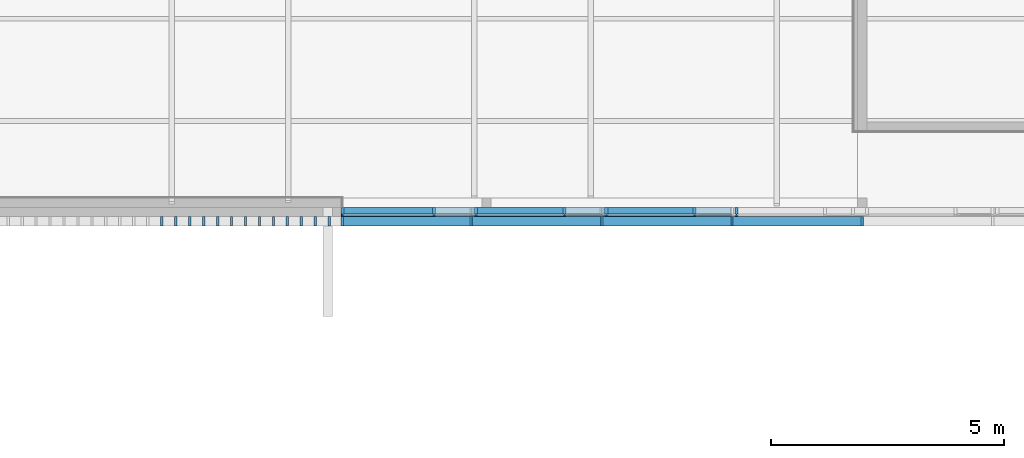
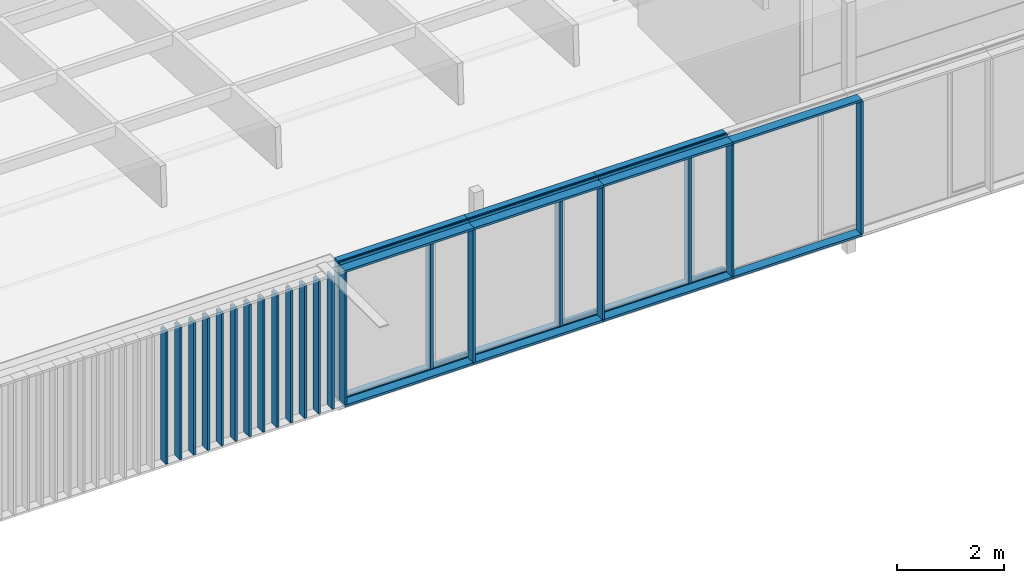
# One storey, part 4 of 240: 39 members, 3 elements without a shape of their own.
"""IFC2X3 building model written with IfcOpenShell, lengths in centimetres."""

from ifc_helpers import new_model, entity, si_unit, converted_unit, derived_unit, direction, frame, origin, origin_2d_with_axis, place, context, subcontext, project, spatial, polyline, rectangle, outline, extrude, source, transform, mapped, material, type_object, type_shapes, element, aggregate, save


model = new_model("IFC2X3")

# Units and contexts
model_context = context("Model", 3, precision=0.001, world=origin(), true_north=direction((6.12303176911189e-17, 1.0)))
body_context = subcontext(model_context, "Body", "Model", "MODEL_VIEW")
ifc_project = project(units=[si_unit("LENGTHUNIT", "METRE", prefix="CENTI"), si_unit("AREAUNIT", "SQUARE_METRE"), si_unit("VOLUMEUNIT", "CUBIC_METRE"), converted_unit("PLANEANGLEUNIT", "DEGREE", entity("IfcRatioMeasure", 0.0174532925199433), si_unit("PLANEANGLEUNIT", "RADIAN"), dimensions=[0, 0, 0, 0, 0, 0, 0]), si_unit("MASSUNIT", "GRAM", prefix="KILO"), derived_unit("MASSDENSITYUNIT", [(si_unit("MASSUNIT", "GRAM", prefix="KILO"), 1), (si_unit("LENGTHUNIT", "METRE"), -3)]), si_unit("TIMEUNIT", "SECOND"), si_unit("FREQUENCYUNIT", "HERTZ"), si_unit("THERMODYNAMICTEMPERATUREUNIT", "DEGREE_CELSIUS"), derived_unit("THERMALTRANSMITTANCEUNIT", [(si_unit("MASSUNIT", "GRAM", prefix="KILO"), 1), (si_unit("THERMODYNAMICTEMPERATUREUNIT", "KELVIN"), -1), (si_unit("TIMEUNIT", "SECOND"), -3)]), derived_unit("VOLUMETRICFLOWRATEUNIT", [(si_unit("LENGTHUNIT", "METRE"), 3), (si_unit("TIMEUNIT", "SECOND"), -1)]), si_unit("ELECTRICCURRENTUNIT", "AMPERE"), si_unit("ELECTRICVOLTAGEUNIT", "VOLT"), si_unit("POWERUNIT", "WATT"), si_unit("FORCEUNIT", "NEWTON", prefix="KILO"), si_unit("ILLUMINANCEUNIT", "LUX"), si_unit("LUMINOUSFLUXUNIT", "LUMEN"), si_unit("LUMINOUSINTENSITYUNIT", "CANDELA"), derived_unit("USERDEFINED", [(si_unit("MASSUNIT", "GRAM", prefix="KILO"), -1), (si_unit("LENGTHUNIT", "METRE"), -2), (si_unit("TIMEUNIT", "SECOND"), 3), (si_unit("LUMINOUSFLUXUNIT", "LUMEN"), 1)]), derived_unit("LINEARVELOCITYUNIT", [(si_unit("LENGTHUNIT", "METRE"), 1), (si_unit("TIMEUNIT", "SECOND"), -1)]), si_unit("PRESSUREUNIT", "PASCAL"), derived_unit("USERDEFINED", [(si_unit("LENGTHUNIT", "METRE"), -2), (si_unit("MASSUNIT", "GRAM", prefix="KILO"), 1), (si_unit("TIMEUNIT", "SECOND"), -2)])], contexts=[model_context])

# Site, building, storey
site_placement = place(None, frame((-2781.94577612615, 7442.24238424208, 0.0)))
site = spatial("IfcSite", under=ifc_project, at=site_placement, Name="Default", CompositionType="ELEMENT")
building_placement = place(site_placement, origin())
building = spatial("IfcBuilding", under=site, at=building_placement, CompositionType="ELEMENT")
storey_placement = place(building_placement, origin())
storey = spatial("IfcBuildingStorey", under=building, at=storey_placement, Name="N00 - COO", CompositionType="ELEMENT", Elevation=0.0)

# Curtain wall, members
curtain_wall_type_1 = type_object("IfcCurtainWallType", Name="Mur-rideau:07 - mur rideau trame 280 cm", PredefinedType="NOTDEFINED")
curtain_wall_1_placement = place(building_placement, origin())
curtain_wall_1 = element("IfcCurtainWall", 1, at=curtain_wall_1_placement, inside=storey, type_object=curtain_wall_type_1, Name="Mur-rideau:07 - mur rideau trame 280 cm", ObjectType="Mur-rideau:07 - mur rideau trame 280 cm")
ifc_material = material(Name="Aluminium")
member_type_1 = type_object("IfcMemberType", Name="150 x 25mm Détails", PredefinedType="MEMBER")
shared_shape_1 = source(origin(), body_context, "Body", "SweptSolid", [
    extrude(outline(polyline([(-5.66666666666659, -3.25), (-3.66666666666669, -3.25), (-3.66666666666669, -0.868749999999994), (-0.166666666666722, -0.868749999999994), (-0.166666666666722, -3.25000000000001), (13.3333333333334, -3.24999999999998), (13.3333333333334, 3.25000000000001), (-0.166666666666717, 3.25000000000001), (-0.166666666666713, 0.868749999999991), (-3.66666666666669, 0.868749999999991), (-3.66666666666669, 3.24999999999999), (-5.66666666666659, 3.24999999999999), (-5.66666666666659, -3.25)])), frame((-3.24999999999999, -1.96666666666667, -299.5), z_axis=(0.0, 0.0, 1.0), x_axis=(0.0, -1.0, 0.0)), (0.0, 0.0, 1.0), 299.5),
])
type_shapes(member_type_1, [shared_shape_1])
member_1_placement = place(building_placement, frame((-10168.0667461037, -5562.80173441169, 306.0), z_axis=(0.0, 0.0, 1.0), x_axis=(-1.0, 0.0, 0.0)))
member_1 = element("IfcMember", 2, at=member_1_placement, type_object=member_type_1, material=ifc_material, Name="Meneau rectangulaire:150 x 25mm Détails", ObjectType="Meneau rectangulaire:150 x 25mm Détails", context=body_context, shape_type="MappedRepresentation", body=[
    mapped(shared_shape_1, transform((0.0, 0.0, 0.0), scale=1.0)),
])
member_2_placement = place(building_placement, frame((-10448.0667461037, -5562.80173441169, 306.0), z_axis=(0.0, 0.0, 1.0), x_axis=(-1.0, 0.0, 0.0)))
member_2 = element("IfcMember", 3, at=member_2_placement, type_object=member_type_1, material=ifc_material, Name="Meneau rectangulaire:150 x 25mm Détails", ObjectType="Meneau rectangulaire:150 x 25mm Détails", context=body_context, shape_type="MappedRepresentation", body=[
    mapped(shared_shape_1, transform((0.0, 0.0, 0.0), scale=1.0)),
])
member_type_2 = type_object("IfcMemberType", Name="150 x 25mm Détails", PredefinedType="MEMBER")
shared_shape_2 = source(origin(), body_context, "Body", "SweptSolid", [
    extrude(outline(polyline([(-5.6666666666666, -3.24999999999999), (-3.66666666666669, -3.24999999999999), (-3.66666666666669, -0.868749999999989), (-0.166666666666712, -0.868749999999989), (-0.166666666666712, -3.25000000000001), (13.3333333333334, -3.25000000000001), (13.3333333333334, 3.24999999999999), (-0.16666666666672, 3.24999999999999), (-0.16666666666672, 0.868749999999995), (-3.66666666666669, 0.868749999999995), (-3.66666666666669, 3.25), (-5.6666666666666, 3.25), (-5.6666666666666, -3.24999999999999)])), frame((-3.24999999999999, -1.96666666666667, -299.5), z_axis=(0.0, 0.0, 1.0), x_axis=(0.0, -1.0, 0.0)), (0.0, 0.0, 1.0), 299.5),
])
type_shapes(member_type_2, [shared_shape_2])
member_3_placement = place(building_placement, frame((-10251.5667461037, -5562.80173441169, 6.49999999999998), z_axis=(0.0, 0.0, -1.0), x_axis=(1.0, 0.0, 0.0)))
member_3 = element("IfcMember", 4, at=member_3_placement, type_object=member_type_2, material=ifc_material, Name="Meneau rectangulaire:150 x 25mm Détails", ObjectType="Meneau rectangulaire:150 x 25mm Détails", context=body_context, shape_type="MappedRepresentation", body=[
    mapped(shared_shape_2, transform((0.0, 0.0, 0.0), scale=1.0)),
])
member_4_placement = place(building_placement, frame((-10531.5667461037, -5562.80173441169, 6.49999999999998), z_axis=(0.0, 0.0, -1.0), x_axis=(1.0, 0.0, 0.0)))
member_4 = element("IfcMember", 5, at=member_4_placement, type_object=member_type_2, material=ifc_material, Name="Meneau rectangulaire:150 x 25mm Détails", ObjectType="Meneau rectangulaire:150 x 25mm Détails", context=body_context, shape_type="MappedRepresentation", body=[
    mapped(shared_shape_2, transform((0.0, 0.0, 0.0), scale=1.0)),
])

curtain_wall_type_2 = type_object("IfcCurtainWallType", Name="Mur-rideau:Epines - 200x50mm", PredefinedType="NOTDEFINED")
curtain_wall_2_placement = place(storey_placement, origin())
curtain_wall_2 = element("IfcCurtainWall", 6, at=curtain_wall_2_placement, inside=storey, type_object=curtain_wall_type_2, Name="Mur-rideau:Epines - 200x50mm", ObjectType="Mur-rideau:Epines - 200x50mm")
member_type_3 = type_object("IfcMemberType", Name="200x50 mm", PredefinedType="MEMBER")
shared_shape_3 = source(origin(), body_context, "Body", "SweptSolid", [
    extrude(rectangle(XDim=20.0, YDim=5.0, at=origin_2d_with_axis()), frame((-2.5, 0.0, -280.0), z_axis=(0.0, 0.0, 1.0), x_axis=(0.0, -1.0, 0.0)), (0.0, 0.0, 1.0), 280.0),
])
type_shapes(member_type_3, [shared_shape_3])
member_5_placement = place(storey_placement, frame((-10454.8167461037, -5576.50173441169, 0.0), z_axis=(-1.0, 0.0, 0.0), x_axis=(0.0, 0.0, -1.0)))
member_5 = element("IfcMember", 7, at=member_5_placement, type_object=member_type_3, material=ifc_material, Name="Meneau rectangulaire:200x50 mm", ObjectType="Meneau rectangulaire:200x50 mm", context=body_context, shape_type="MappedRepresentation", body=[
    mapped(shared_shape_3, transform((0.0, 0.0, 0.0), scale=1.0)),
])
member_6_placement = place(storey_placement, frame((-10174.8167461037, -5576.50173441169, 0.0), z_axis=(-1.0, 0.0, 0.0), x_axis=(0.0, 0.0, -1.0)))
member_6 = element("IfcMember", 8, at=member_6_placement, type_object=member_type_3, material=ifc_material, Name="Meneau rectangulaire:200x50 mm", ObjectType="Meneau rectangulaire:200x50 mm", context=body_context, shape_type="MappedRepresentation", body=[
    mapped(shared_shape_3, transform((0.0, 0.0, 0.0), scale=1.0)),
])
member_7_placement = place(storey_placement, frame((-9894.81674610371, -5576.50173441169, 0.0), z_axis=(-1.0, 0.0, 0.0), x_axis=(0.0, 0.0, -1.0)))
member_7 = element("IfcMember", 9, at=member_7_placement, type_object=member_type_3, material=ifc_material, Name="Meneau rectangulaire:200x50 mm", ObjectType="Meneau rectangulaire:200x50 mm", context=body_context, shape_type="MappedRepresentation", body=[
    mapped(shared_shape_3, transform((0.0, 0.0, 0.0), scale=1.0)),
])

curtain_wall_3_placement = place(building_placement, origin())
curtain_wall_3 = element("IfcCurtainWall", 10, at=curtain_wall_3_placement, inside=storey, type_object=curtain_wall_type_2, Name="Mur-rideau:Epines - 200x50mm", ObjectType="Mur-rideau:Epines - 200x50mm")
member_type_4 = type_object("IfcMemberType", Name="200x50 mm", PredefinedType="MEMBER")
shared_shape_4 = source(origin(), body_context, "Body", "SweptSolid", [
    extrude(rectangle(XDim=20.0, YDim=5.0, at=origin_2d_with_axis()), frame((0.0, 0.0, -303.0), z_axis=(0.0, 0.0, 1.0), x_axis=(0.0, -1.0, 0.0)), (0.0, 0.0, 1.0), 303.000000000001),
])
type_shapes(member_type_4, [shared_shape_4])
member_8_placement = place(building_placement, frame((-11119.8167461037, -5576.50173441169, 5.0), z_axis=(0.0, 0.0, -1.0), x_axis=(1.0, 0.0, 0.0)))
member_8 = element("IfcMember", 11, at=member_8_placement, type_object=member_type_4, material=ifc_material, Name="Meneau rectangulaire:200x50 mm", ObjectType="Meneau rectangulaire:200x50 mm", context=body_context, shape_type="MappedRepresentation", body=[
    mapped(shared_shape_4, transform((0.0, 0.0, 0.0), scale=1.0)),
])
member_9_placement = place(building_placement, frame((-11089.8167461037, -5576.50173441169, 5.0), z_axis=(0.0, 0.0, -1.0), x_axis=(1.0, 0.0, 0.0)))
member_9 = element("IfcMember", 12, at=member_9_placement, type_object=member_type_4, material=ifc_material, Name="Meneau rectangulaire:200x50 mm", ObjectType="Meneau rectangulaire:200x50 mm", context=body_context, shape_type="MappedRepresentation", body=[
    mapped(shared_shape_4, transform((0.0, 0.0, 0.0), scale=1.0)),
])
member_10_placement = place(building_placement, frame((-11059.8167461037, -5576.50173441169, 5.0), z_axis=(0.0, 0.0, -1.0), x_axis=(1.0, 0.0, 0.0)))
member_10 = element("IfcMember", 13, at=member_10_placement, type_object=member_type_4, material=ifc_material, Name="Meneau rectangulaire:200x50 mm", ObjectType="Meneau rectangulaire:200x50 mm", context=body_context, shape_type="MappedRepresentation", body=[
    mapped(shared_shape_4, transform((0.0, 0.0, 0.0), scale=1.0)),
])
member_11_placement = place(building_placement, frame((-11029.8167461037, -5576.50173441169, 5.0), z_axis=(0.0, 0.0, -1.0), x_axis=(1.0, 0.0, 0.0)))
member_11 = element("IfcMember", 14, at=member_11_placement, type_object=member_type_4, material=ifc_material, Name="Meneau rectangulaire:200x50 mm", ObjectType="Meneau rectangulaire:200x50 mm", context=body_context, shape_type="MappedRepresentation", body=[
    mapped(shared_shape_4, transform((0.0, 0.0, 0.0), scale=1.0)),
])
member_12_placement = place(building_placement, frame((-10999.8167461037, -5576.50173441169, 5.0), z_axis=(0.0, 0.0, -1.0), x_axis=(1.0, 0.0, 0.0)))
member_12 = element("IfcMember", 15, at=member_12_placement, type_object=member_type_4, material=ifc_material, Name="Meneau rectangulaire:200x50 mm", ObjectType="Meneau rectangulaire:200x50 mm", context=body_context, shape_type="MappedRepresentation", body=[
    mapped(shared_shape_4, transform((0.0, 0.0, 0.0), scale=1.0)),
])
member_13_placement = place(building_placement, frame((-10969.8167461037, -5576.50173441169, 5.0), z_axis=(0.0, 0.0, -1.0), x_axis=(1.0, 0.0, 0.0)))
member_13 = element("IfcMember", 16, at=member_13_placement, type_object=member_type_4, material=ifc_material, Name="Meneau rectangulaire:200x50 mm", ObjectType="Meneau rectangulaire:200x50 mm", context=body_context, shape_type="MappedRepresentation", body=[
    mapped(shared_shape_4, transform((0.0, 0.0, 0.0), scale=1.0)),
])
member_14_placement = place(building_placement, frame((-10939.8167461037, -5576.50173441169, 5.0), z_axis=(0.0, 0.0, -1.0), x_axis=(1.0, 0.0, 0.0)))
member_14 = element("IfcMember", 17, at=member_14_placement, type_object=member_type_4, material=ifc_material, Name="Meneau rectangulaire:200x50 mm", ObjectType="Meneau rectangulaire:200x50 mm", context=body_context, shape_type="MappedRepresentation", body=[
    mapped(shared_shape_4, transform((0.0, 0.0, 0.0), scale=1.0)),
])
member_15_placement = place(building_placement, frame((-10909.8167461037, -5576.50173441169, 5.0), z_axis=(0.0, 0.0, -1.0), x_axis=(1.0, 0.0, 0.0)))
member_15 = element("IfcMember", 18, at=member_15_placement, type_object=member_type_4, material=ifc_material, Name="Meneau rectangulaire:200x50 mm", ObjectType="Meneau rectangulaire:200x50 mm", context=body_context, shape_type="MappedRepresentation", body=[
    mapped(shared_shape_4, transform((0.0, 0.0, 0.0), scale=1.0)),
])
member_16_placement = place(building_placement, frame((-10879.8167461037, -5576.50173441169, 5.0), z_axis=(0.0, 0.0, -1.0), x_axis=(1.0, 0.0, 0.0)))
member_16 = element("IfcMember", 19, at=member_16_placement, type_object=member_type_4, material=ifc_material, Name="Meneau rectangulaire:200x50 mm", ObjectType="Meneau rectangulaire:200x50 mm", context=body_context, shape_type="MappedRepresentation", body=[
    mapped(shared_shape_4, transform((0.0, 0.0, 0.0), scale=1.0)),
])
member_17_placement = place(building_placement, frame((-10849.8167461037, -5576.50173441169, 5.0), z_axis=(0.0, 0.0, -1.0), x_axis=(1.0, 0.0, 0.0)))
member_17 = element("IfcMember", 20, at=member_17_placement, type_object=member_type_4, material=ifc_material, Name="Meneau rectangulaire:200x50 mm", ObjectType="Meneau rectangulaire:200x50 mm", context=body_context, shape_type="MappedRepresentation", body=[
    mapped(shared_shape_4, transform((0.0, 0.0, 0.0), scale=1.0)),
])
member_18_placement = place(building_placement, frame((-10819.8167461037, -5576.50173441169, 5.0), z_axis=(0.0, 0.0, -1.0), x_axis=(1.0, 0.0, 0.0)))
member_18 = element("IfcMember", 21, at=member_18_placement, type_object=member_type_4, material=ifc_material, Name="Meneau rectangulaire:200x50 mm", ObjectType="Meneau rectangulaire:200x50 mm", context=body_context, shape_type="MappedRepresentation", body=[
    mapped(shared_shape_4, transform((0.0, 0.0, 0.0), scale=1.0)),
])
member_19_placement = place(building_placement, frame((-10789.8167461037, -5576.50173441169, 5.0), z_axis=(0.0, 0.0, -1.0), x_axis=(1.0, 0.0, 0.0)))
member_19 = element("IfcMember", 22, at=member_19_placement, type_object=member_type_4, material=ifc_material, Name="Meneau rectangulaire:200x50 mm", ObjectType="Meneau rectangulaire:200x50 mm", context=body_context, shape_type="MappedRepresentation", body=[
    mapped(shared_shape_4, transform((0.0, 0.0, 0.0), scale=1.0)),
])
member_20_placement = place(building_placement, frame((-10759.8167461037, -5576.50173441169, 5.0), z_axis=(0.0, 0.0, -1.0), x_axis=(1.0, 0.0, 0.0)))
member_20 = element("IfcMember", 23, at=member_20_placement, type_object=member_type_4, material=ifc_material, Name="Meneau rectangulaire:200x50 mm", ObjectType="Meneau rectangulaire:200x50 mm", context=body_context, shape_type="MappedRepresentation", body=[
    mapped(shared_shape_4, transform((0.0, 0.0, 0.0), scale=1.0)),
])
aggregate(curtain_wall_3, [member_8, member_9, member_10, member_11, member_12, member_13, member_14, member_15, member_16, member_17, member_18, member_19, member_20])

# Member
member_21_placement = place(storey_placement, frame((-10454.8167461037, -5576.50173441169, 5.0), z_axis=(0.0, 0.0, -1.0), x_axis=(1.0, 0.0, 0.0)))
member_21 = element("IfcMember", 24, at=member_21_placement, type_object=member_type_4, material=ifc_material, Name="Meneau rectangulaire:200x50 mm", ObjectType="Meneau rectangulaire:200x50 mm", context=body_context, shape_type="MappedRepresentation", body=[
    mapped(shared_shape_4, transform((0.0, 0.0, 0.0), scale=1.0)),
])

member_22_placement = place(storey_placement, frame((-10174.8167461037, -5576.50173441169, 5.0), z_axis=(0.0, 0.0, -1.0), x_axis=(1.0, 0.0, 0.0)))
member_22 = element("IfcMember", 25, at=member_22_placement, type_object=member_type_4, material=ifc_material, Name="Meneau rectangulaire:200x50 mm", ObjectType="Meneau rectangulaire:200x50 mm", context=body_context, shape_type="MappedRepresentation", body=[
    mapped(shared_shape_4, transform((0.0, 0.0, 0.0), scale=1.0)),
])

member_23_placement = place(storey_placement, frame((-9894.81674610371, -5576.50173441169, 5.0), z_axis=(0.0, 0.0, -1.0), x_axis=(1.0, 0.0, 0.0)))
member_23 = element("IfcMember", 26, at=member_23_placement, type_object=member_type_4, material=ifc_material, Name="Meneau rectangulaire:200x50 mm", ObjectType="Meneau rectangulaire:200x50 mm", context=body_context, shape_type="MappedRepresentation", body=[
    mapped(shared_shape_4, transform((0.0, 0.0, 0.0), scale=1.0)),
])

member_24_placement = place(storey_placement, frame((-9614.81674610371, -5576.50173441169, 5.0), z_axis=(0.0, 0.0, -1.0), x_axis=(1.0, 0.0, 0.0)))
member_24 = element("IfcMember", 27, at=member_24_placement, type_object=member_type_4, material=ifc_material, Name="Meneau rectangulaire:200x50 mm", ObjectType="Meneau rectangulaire:200x50 mm", context=body_context, shape_type="MappedRepresentation", body=[
    mapped(shared_shape_4, transform((0.0, 0.0, 0.0), scale=1.0)),
])

member_type_5 = type_object("IfcMemberType", Name="200x50 mm", PredefinedType="MEMBER")
shared_shape_5 = source(origin(), body_context, "Body", "SweptSolid", [
    extrude(rectangle(XDim=20.0, YDim=5.0, at=origin_2d_with_axis()), frame((-2.5, 0.0, -303.0), z_axis=(0.0, 0.0, 1.0), x_axis=(0.0, -1.0, 0.0)), (0.0, 0.0, 1.0), 303.000000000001),
])
type_shapes(member_type_5, [shared_shape_5])
member_25_placement = place(storey_placement, frame((-10734.8167461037, -5576.50173441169, 308.0), z_axis=(0.0, 0.0, 1.0), x_axis=(-1.0, 0.0, 0.0)))
member_25 = element("IfcMember", 28, at=member_25_placement, type_object=member_type_5, material=ifc_material, Name="Meneau rectangulaire:200x50 mm", ObjectType="Meneau rectangulaire:200x50 mm", context=body_context, shape_type="MappedRepresentation", body=[
    mapped(shared_shape_5, transform((0.0, 0.0, 0.0), scale=1.0)),
])

member_type_6 = type_object("IfcMemberType", Name="150 x 25mm Détails", PredefinedType="MEMBER")
shared_shape_6 = source(origin(), body_context, "Body", "SweptSolid", [
    extrude(outline(polyline([(-5.6666666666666, -3.24999999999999), (-3.66666666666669, -3.24999999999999), (-3.66666666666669, -0.868749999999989), (-0.166666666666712, -0.868749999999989), (-0.166666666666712, -3.25000000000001), (13.3333333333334, -3.25000000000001), (13.3333333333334, 3.24999999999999), (-0.16666666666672, 3.24999999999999), (-0.16666666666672, 0.868749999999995), (-3.66666666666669, 0.868749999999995), (-3.66666666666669, 3.25), (-5.6666666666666, 3.25), (-5.6666666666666, -3.24999999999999)])), frame((-3.24999999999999, -1.96666666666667, -280.0), z_axis=(0.0, 0.0, 1.0), x_axis=(0.0, -1.0, 0.0)), (0.0, 0.0, 1.0), 280.00000003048),
])
type_shapes(member_type_6, [shared_shape_6])
member_26_placement = place(building_placement, frame((-10454.8167461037, -5562.80173441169, 319.50860145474), z_axis=(1.0, 0.0, 0.0), x_axis=(0.0, 0.0, 1.0)))
member_26 = element("IfcMember", 29, at=member_26_placement, type_object=member_type_6, material=ifc_material, Name="Meneau rectangulaire:150 x 25mm Détails", ObjectType="Meneau rectangulaire:150 x 25mm Détails", context=body_context, shape_type="MappedRepresentation", body=[
    mapped(shared_shape_6, transform((0.0, 0.0, 0.0), scale=1.0)),
])

member_type_7 = type_object("IfcMemberType", Name="150 x 25mm Détails", PredefinedType="MEMBER")
shared_shape_7 = source(origin(), body_context, "Body", "SweptSolid", [
    extrude(outline(polyline([(-5.6666666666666, -3.24999999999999), (-3.66666666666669, -3.24999999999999), (-3.66666666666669, -0.868749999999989), (-0.166666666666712, -0.868749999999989), (-0.166666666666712, -3.25000000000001), (13.3333333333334, -3.25000000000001), (13.3333333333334, 3.24999999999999), (-0.16666666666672, 3.24999999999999), (-0.16666666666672, 0.868749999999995), (-3.66666666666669, 0.868749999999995), (-3.66666666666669, 3.25), (-5.6666666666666, 3.25), (-5.6666666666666, -3.24999999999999)])), frame((-3.24999999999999, -1.96666666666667, -280.0), z_axis=(0.0, 0.0, 1.0), x_axis=(0.0, -1.0, 0.0)), (0.0, 0.0, 1.0), 280.0),
])
type_shapes(member_type_7, [shared_shape_7])
member_27_placement = place(building_placement, frame((-10174.8167461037, -5562.80173441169, 319.50860145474), z_axis=(1.0, 0.0, 0.0), x_axis=(0.0, 0.0, 1.0)))
member_27 = element("IfcMember", 30, at=member_27_placement, type_object=member_type_7, material=ifc_material, Name="Meneau rectangulaire:150 x 25mm Détails", ObjectType="Meneau rectangulaire:150 x 25mm Détails", context=body_context, shape_type="MappedRepresentation", body=[
    mapped(shared_shape_7, transform((0.0, 0.0, 0.0), scale=1.0)),
])

member_28_placement = place(building_placement, frame((-9894.81674610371, -5562.80173441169, 319.50860145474), z_axis=(1.0, 0.0, 0.0), x_axis=(0.0, 0.0, 1.0)))
member_28 = element("IfcMember", 31, at=member_28_placement, type_object=member_type_7, material=ifc_material, Name="Meneau rectangulaire:150 x 25mm Détails", ObjectType="Meneau rectangulaire:150 x 25mm Détails", context=body_context, shape_type="MappedRepresentation", body=[
    mapped(shared_shape_7, transform((0.0, 0.0, 0.0), scale=1.0)),
])

member_type_8 = type_object("IfcMemberType", Name="200x50 mm", PredefinedType="MEMBER")
shared_shape_8 = source(origin(), body_context, "Body", "SweptSolid", [
    extrude(rectangle(XDim=20.0, YDim=5.0, at=origin_2d_with_axis()), frame((-2.5, 0.0, -280.0), z_axis=(0.0, 0.0, 1.0), x_axis=(0.0, -1.0, 0.0)), (0.0, 0.0, 1.0), 279.999999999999),
])
type_shapes(member_type_8, [shared_shape_8])
member_29_placement = place(storey_placement, frame((-10734.8167461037, -5576.50173441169, 0.0), z_axis=(-1.0, 0.0, 0.0), x_axis=(0.0, 0.0, -1.0)))
member_29 = element("IfcMember", 32, at=member_29_placement, type_object=member_type_8, material=ifc_material, Name="Meneau rectangulaire:200x50 mm", ObjectType="Meneau rectangulaire:200x50 mm", context=body_context, shape_type="MappedRepresentation", body=[
    mapped(shared_shape_8, transform((0.0, 0.0, 0.0), scale=1.0)),
])

member_type_9 = type_object("IfcMemberType", Name="200x50 mm", PredefinedType="MEMBER")
shared_shape_9 = source(origin(), body_context, "Body", "SweptSolid", [
    extrude(rectangle(XDim=20.0, YDim=5.0, at=origin_2d_with_axis()), frame((-2.5, 0.0, -280.0), z_axis=(0.0, 0.0, 1.0), x_axis=(0.0, -1.0, 0.0)), (0.0, 0.0, 1.0), 279.999999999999),
])
type_shapes(member_type_9, [shared_shape_9])
member_30_placement = place(storey_placement, frame((-10454.8167461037, -5576.50173441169, 313.0), z_axis=(1.0, 0.0, 0.0), x_axis=(0.0, 0.0, 1.0)))
member_30 = element("IfcMember", 33, at=member_30_placement, type_object=member_type_9, material=ifc_material, Name="Meneau rectangulaire:200x50 mm", ObjectType="Meneau rectangulaire:200x50 mm", context=body_context, shape_type="MappedRepresentation", body=[
    mapped(shared_shape_9, transform((0.0, 0.0, 0.0), scale=1.0)),
])

member_type_10 = type_object("IfcMemberType", Name="200x50 mm", PredefinedType="MEMBER")
shared_shape_10 = source(origin(), body_context, "Body", "SweptSolid", [
    extrude(rectangle(XDim=20.0, YDim=5.0, at=origin_2d_with_axis()), frame((-2.5, 0.0, -280.0), z_axis=(0.0, 0.0, 1.0), x_axis=(0.0, -1.0, 0.0)), (0.0, 0.0, 1.0), 280.0),
])
type_shapes(member_type_10, [shared_shape_10])
member_31_placement = place(storey_placement, frame((-10174.8167461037, -5576.50173441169, 313.0), z_axis=(1.0, 0.0, 0.0), x_axis=(0.0, 0.0, 1.0)))
member_31 = element("IfcMember", 34, at=member_31_placement, type_object=member_type_10, material=ifc_material, Name="Meneau rectangulaire:200x50 mm", ObjectType="Meneau rectangulaire:200x50 mm", context=body_context, shape_type="MappedRepresentation", body=[
    mapped(shared_shape_10, transform((0.0, 0.0, 0.0), scale=1.0)),
])

member_32_placement = place(storey_placement, frame((-9894.81674610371, -5576.50173441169, 313.0), z_axis=(1.0, 0.0, 0.0), x_axis=(0.0, 0.0, 1.0)))
member_32 = element("IfcMember", 35, at=member_32_placement, type_object=member_type_10, material=ifc_material, Name="Meneau rectangulaire:200x50 mm", ObjectType="Meneau rectangulaire:200x50 mm", context=body_context, shape_type="MappedRepresentation", body=[
    mapped(shared_shape_10, transform((0.0, 0.0, 0.0), scale=1.0)),
])

member_33_placement = place(storey_placement, frame((-9614.81674610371, -5576.50173441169, 313.0), z_axis=(1.0, 0.0, 0.0), x_axis=(0.0, 0.0, 1.0)))
member_33 = element("IfcMember", 36, at=member_33_placement, type_object=member_type_10, material=ifc_material, Name="Meneau rectangulaire:200x50 mm", ObjectType="Meneau rectangulaire:200x50 mm", context=body_context, shape_type="MappedRepresentation", body=[
    mapped(shared_shape_10, transform((0.0, 0.0, 0.0), scale=1.0)),
])

aggregate(curtain_wall_2, [member_29, member_30, member_5, member_31, member_6, member_32, member_7, member_33, member_25, member_21, member_22, member_23, member_24])

member_type_11 = type_object("IfcMemberType", Name="150 x 25mm Détails", PredefinedType="MEMBER")
shared_shape_11 = source(origin(), body_context, "Body", "SweptSolid", [
    extrude(outline(polyline([(-5.66666666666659, -3.25), (-3.66666666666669, -3.25), (-3.66666666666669, -0.868749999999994), (-0.166666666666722, -0.868749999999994), (-0.166666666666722, -3.25000000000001), (13.3333333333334, -3.24999999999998), (13.3333333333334, 3.25000000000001), (-0.166666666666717, 3.25000000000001), (-0.166666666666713, 0.868749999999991), (-3.66666666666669, 0.868749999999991), (-3.66666666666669, 3.24999999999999), (-5.66666666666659, 3.24999999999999), (-5.66666666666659, -3.25)])), frame((-3.24999999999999, -1.96666666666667, -280.0), z_axis=(0.0, 0.0, 1.0), x_axis=(0.0, -1.0, 0.0)), (0.0, 0.0, 1.0), 280.00000003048),
])
type_shapes(member_type_11, [shared_shape_11])
member_34_placement = place(building_placement, frame((-10734.8167461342, -5562.80173441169, 0.0), z_axis=(-1.0, 0.0, 0.0), x_axis=(0.0, 0.0, -1.0)))
member_34 = element("IfcMember", 37, at=member_34_placement, type_object=member_type_11, material=ifc_material, Name="Meneau rectangulaire:150 x 25mm Détails", ObjectType="Meneau rectangulaire:150 x 25mm Détails", context=body_context, shape_type="MappedRepresentation", body=[
    mapped(shared_shape_11, transform((0.0, 0.0, 0.0), scale=1.0)),
])

member_type_12 = type_object("IfcMemberType", Name="150 x 25mm Détails", PredefinedType="MEMBER")
shared_shape_12 = source(origin(), body_context, "Body", "SweptSolid", [
    extrude(outline(polyline([(-5.66666666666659, -3.25), (-3.66666666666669, -3.25), (-3.66666666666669, -0.868749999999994), (-0.166666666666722, -0.868749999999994), (-0.166666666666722, -3.25000000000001), (13.3333333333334, -3.24999999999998), (13.3333333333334, 3.25000000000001), (-0.166666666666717, 3.25000000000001), (-0.166666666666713, 0.868749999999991), (-3.66666666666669, 0.868749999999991), (-3.66666666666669, 3.24999999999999), (-5.66666666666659, 3.24999999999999), (-5.66666666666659, -3.25)])), frame((-3.24999999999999, -1.96666666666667, -280.0), z_axis=(0.0, 0.0, 1.0), x_axis=(0.0, -1.0, 0.0)), (0.0, 0.0, 1.0), 280.0),
])
type_shapes(member_type_12, [shared_shape_12])
member_35_placement = place(building_placement, frame((-10454.8167461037, -5562.80173441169, 0.0), z_axis=(-1.0, 0.0, 0.0), x_axis=(0.0, 0.0, -1.0)))
member_35 = element("IfcMember", 38, at=member_35_placement, type_object=member_type_12, material=ifc_material, Name="Meneau rectangulaire:150 x 25mm Détails", ObjectType="Meneau rectangulaire:150 x 25mm Détails", context=body_context, shape_type="MappedRepresentation", body=[
    mapped(shared_shape_12, transform((0.0, 0.0, 0.0), scale=1.0)),
])

member_36_placement = place(building_placement, frame((-10174.8167461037, -5562.80173441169, 0.0), z_axis=(-1.0, 0.0, 0.0), x_axis=(0.0, 0.0, -1.0)))
member_36 = element("IfcMember", 39, at=member_36_placement, type_object=member_type_12, material=ifc_material, Name="Meneau rectangulaire:150 x 25mm Détails", ObjectType="Meneau rectangulaire:150 x 25mm Détails", context=body_context, shape_type="MappedRepresentation", body=[
    mapped(shared_shape_12, transform((0.0, 0.0, 0.0), scale=1.0)),
])

member_type_13 = type_object("IfcMemberType", Name="150 x 25mm Détails", PredefinedType="MEMBER")
shared_shape_13 = source(origin(), body_context, "Body", "SweptSolid", [
    extrude(outline(polyline([(-5.6666666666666, -3.25), (-3.66666666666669, -3.25), (-3.66666666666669, -0.868749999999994), (-0.166666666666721, -0.868749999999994), (-0.166666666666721, -3.25000000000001), (13.3333333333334, -3.24999999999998), (13.3333333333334, 3.25000000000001), (-0.166666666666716, 3.25000000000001), (-0.166666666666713, 0.868749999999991), (-3.66666666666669, 0.868749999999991), (-3.66666666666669, 3.24999999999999), (-5.6666666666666, 3.24999999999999), (-5.6666666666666, -3.25)])), frame((-3.24999999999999, -1.96666666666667, -306.50860145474), z_axis=(0.0, 0.0, 1.0), x_axis=(0.0, -1.0, 0.0)), (0.0, 0.0, 1.0), 306.50860145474),
])
type_shapes(member_type_13, [shared_shape_13])
member_37_placement = place(building_placement, frame((-10734.8167461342, -5562.80173441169, 313.00860145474), z_axis=(0.0, 0.0, 1.0), x_axis=(-1.0, 0.0, 0.0)))
member_37 = element("IfcMember", 40, at=member_37_placement, type_object=member_type_13, material=ifc_material, Name="Meneau rectangulaire:150 x 25mm Détails", ObjectType="Meneau rectangulaire:150 x 25mm Détails", context=body_context, shape_type="MappedRepresentation", body=[
    mapped(shared_shape_13, transform((0.0, 0.0, 0.0), scale=1.0)),
])

member_type_14 = type_object("IfcMemberType", Name="150 x 25mm Détails", PredefinedType="MEMBER")
shared_shape_14 = source(origin(), body_context, "Body", "SweptSolid", [
    extrude(outline(polyline([(-5.6666666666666, -3.25), (-3.66666666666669, -3.25), (-3.66666666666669, -0.868749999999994), (-0.166666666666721, -0.868749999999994), (-0.166666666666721, -3.25000000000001), (13.3333333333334, -3.24999999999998), (13.3333333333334, 3.25000000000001), (-0.166666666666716, 3.25000000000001), (-0.166666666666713, 0.868749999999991), (-3.66666666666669, 0.868749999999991), (-3.66666666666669, 3.24999999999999), (-5.6666666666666, 3.24999999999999), (-5.6666666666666, -3.25)])), frame((-3.24999999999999, -1.96666666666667, -299.5), z_axis=(0.0, 0.0, 1.0), x_axis=(0.0, -1.0, 0.0)), (0.0, 0.0, 1.0), 299.5),
])
type_shapes(member_type_14, [shared_shape_14])
member_38_placement = place(building_placement, frame((-9888.06674610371, -5562.80173441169, 306.0), z_axis=(0.0, 0.0, 1.0), x_axis=(-1.0, 0.0, 0.0)))
member_38 = element("IfcMember", 41, at=member_38_placement, type_object=member_type_14, material=ifc_material, Name="Meneau rectangulaire:150 x 25mm Détails", ObjectType="Meneau rectangulaire:150 x 25mm Détails", context=body_context, shape_type="MappedRepresentation", body=[
    mapped(shared_shape_14, transform((0.0, 0.0, 0.0), scale=1.0)),
])

member_type_15 = type_object("IfcMemberType", Name="150 x 25mm Détails", PredefinedType="MEMBER")
shared_shape_15 = source(origin(), body_context, "Body", "SweptSolid", [
    extrude(outline(polyline([(-5.66666666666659, -3.24999999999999), (-3.66666666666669, -3.24999999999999), (-3.66666666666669, -0.868749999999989), (-0.166666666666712, -0.868749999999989), (-0.166666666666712, -3.25000000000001), (13.3333333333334, -3.25000000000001), (13.3333333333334, 3.24999999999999), (-0.166666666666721, 3.24999999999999), (-0.166666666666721, 0.868749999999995), (-3.66666666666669, 0.868749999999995), (-3.66666666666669, 3.25), (-5.66666666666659, 3.25), (-5.66666666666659, -3.24999999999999)])), frame((-3.24999999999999, -1.96666666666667, -299.5), z_axis=(0.0, 0.0, 1.0), x_axis=(0.0, -1.0, 0.0)), (0.0, 0.0, 1.0), 299.5),
])
type_shapes(member_type_15, [shared_shape_15])
member_39_placement = place(building_placement, frame((-9971.56674610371, -5562.80173441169, 6.49999999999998), z_axis=(0.0, 0.0, -1.0), x_axis=(1.0, 0.0, 0.0)))
member_39 = element("IfcMember", 42, at=member_39_placement, type_object=member_type_15, material=ifc_material, Name="Meneau rectangulaire:150 x 25mm Détails", ObjectType="Meneau rectangulaire:150 x 25mm Détails", context=body_context, shape_type="MappedRepresentation", body=[
    mapped(shared_shape_15, transform((0.0, 0.0, 0.0), scale=1.0)),
])

aggregate(curtain_wall_1, [member_34, member_35, member_36, member_37, member_38, member_39, member_1, member_3, member_2, member_4, member_26, member_27, member_28])

save(model, "model.ifc")
